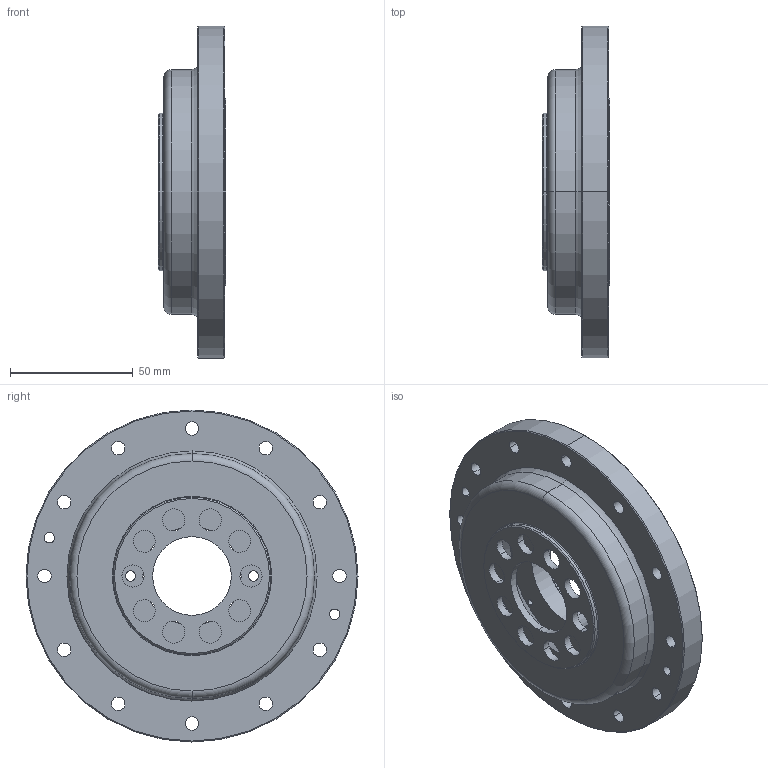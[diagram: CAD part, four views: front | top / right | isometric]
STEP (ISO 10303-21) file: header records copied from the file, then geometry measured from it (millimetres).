
FILE_DESCRIPTION (( 'STEP AP203' ), '1' );
FILE_NAME ('LCD-40-XXX-P-I.STEP', '2017-04-06T06:43:36', ( 'Windows 蚚誧' ), ( 'Users' ), 'SwSTEP 2.0', 'SolidWorks 2013', '' );
FILE_SCHEMA (( 'CONFIG_CONTROL_DESIGN' ));
Length unit declared in the file: millimetre
Products named in the file (7): DB-40-I; 錨璃5; LCD-40-XXX-P01; LCD-40-XXX-P02; countersunk flat head cross recess screw_din_ISO 7046-1 - M3 x 8 - Z --- 8C; LCD-40-XXX-P-I; LCD-40-XXX-P03
Assembly tree (9 placements, depth 2):
  LCD-40-XXX-P-I
    LCD-40-XXX-P03
    DB-40-I
    錨璃5
    LCD-40-XXX-P01
    LCD-40-XXX-P02
    countersunk flat head cross recess screw_din_ISO 7046-1 - M3 x 8 - Z --- 8C  x4
Bounding box: 27.45 x 135 x 135 mm (x, y, z)
Volume: 428128.3 mm3; surface area: 434310.2 mm2
Topology: 35 solids, 35 shells, 1468 faces, 3496 edges, 2060 vertices
Faces by surface type: torus 614, cylinder 474, plane 224, cone 102, sphere 54
Entity records: 40613 total; most frequent: CARTESIAN_POINT 7964, DIRECTION 7803, ORIENTED_EDGE 6100, AXIS2_PLACEMENT_3D 3625, EDGE_CURVE 3050, CIRCLE 2268, VERTEX_POINT 1790, EDGE_LOOP 1562
